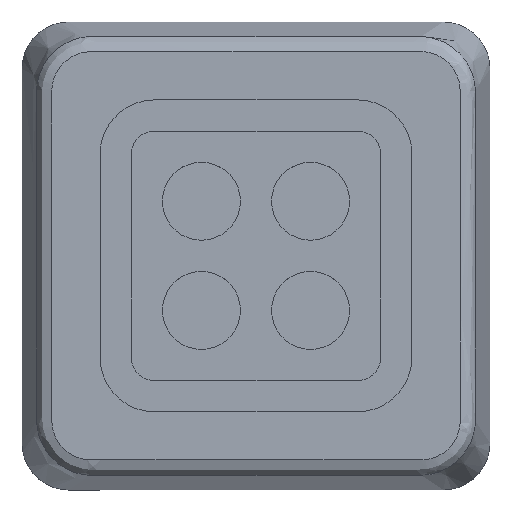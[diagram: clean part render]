
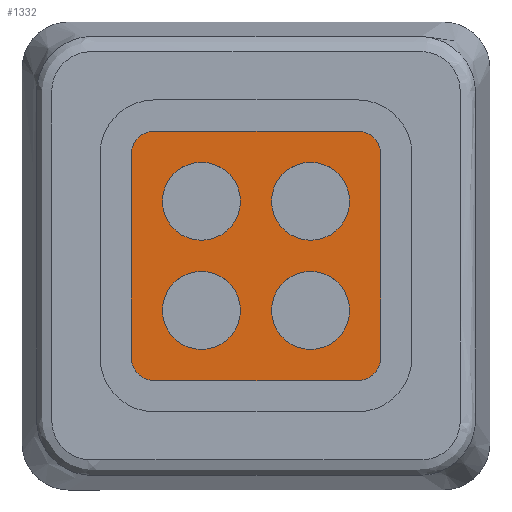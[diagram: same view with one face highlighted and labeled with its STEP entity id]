
A CAD part, top view. The second image highlights one B-rep face of the part: STEP entity #1332.
In plain terms, the highlighted planar face has unit normal (0, 0, 1).
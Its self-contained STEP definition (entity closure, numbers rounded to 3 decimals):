
#28=FACE_BOUND('',#203,.T.);
#29=FACE_BOUND('',#204,.T.);
#30=FACE_BOUND('',#205,.T.);
#31=FACE_BOUND('',#206,.T.);
#49=PLANE('',#1439);
#120=FACE_OUTER_BOUND('',#202,.T.);
#202=EDGE_LOOP('',(#1003,#1004,#1005,#1006,#1007,#1008,#1009,#1010));
#203=EDGE_LOOP('',(#1011));
#204=EDGE_LOOP('',(#1012));
#205=EDGE_LOOP('',(#1013));
#206=EDGE_LOOP('',(#1014));
#269=LINE('',#1918,#410);
#274=LINE('',#1932,#415);
#278=LINE('',#1944,#419);
#282=LINE('',#1956,#423);
#410=VECTOR('',#1541,10.);
#415=VECTOR('',#1554,10.);
#419=VECTOR('',#1566,10.);
#423=VECTOR('',#1578,10.);
#548=CIRCLE('',#1391,1.25);
#550=CIRCLE('',#1395,1.25);
#552=CIRCLE('',#1399,1.25);
#554=CIRCLE('',#1404,0.75);
#556=CIRCLE('',#1408,0.75);
#558=CIRCLE('',#1412,0.75);
#560=CIRCLE('',#1416,0.75);
#570=CIRCLE('',#1436,1.25);
#589=VERTEX_POINT('',#1895);
#591=VERTEX_POINT('',#1902);
#593=VERTEX_POINT('',#1909);
#595=VERTEX_POINT('',#1916);
#596=VERTEX_POINT('',#1917);
#599=VERTEX_POINT('',#1925);
#601=VERTEX_POINT('',#1931);
#603=VERTEX_POINT('',#1937);
#605=VERTEX_POINT('',#1943);
#607=VERTEX_POINT('',#1949);
#609=VERTEX_POINT('',#1955);
#627=VERTEX_POINT('',#2013);
#711=EDGE_CURVE('',#589,#589,#548,.T.);
#714=EDGE_CURVE('',#591,#591,#550,.T.);
#717=EDGE_CURVE('',#593,#593,#552,.T.);
#720=EDGE_CURVE('',#595,#596,#269,.T.);
#724=EDGE_CURVE('',#599,#595,#554,.T.);
#727=EDGE_CURVE('',#601,#599,#274,.T.);
#730=EDGE_CURVE('',#603,#601,#556,.T.);
#733=EDGE_CURVE('',#605,#603,#278,.T.);
#736=EDGE_CURVE('',#607,#605,#558,.T.);
#739=EDGE_CURVE('',#609,#607,#282,.T.);
#742=EDGE_CURVE('',#596,#609,#560,.T.);
#768=EDGE_CURVE('',#627,#627,#570,.T.);
#1003=ORIENTED_EDGE('',*,*,#720,.T.);
#1004=ORIENTED_EDGE('',*,*,#742,.T.);
#1005=ORIENTED_EDGE('',*,*,#739,.T.);
#1006=ORIENTED_EDGE('',*,*,#736,.T.);
#1007=ORIENTED_EDGE('',*,*,#733,.T.);
#1008=ORIENTED_EDGE('',*,*,#730,.T.);
#1009=ORIENTED_EDGE('',*,*,#727,.T.);
#1010=ORIENTED_EDGE('',*,*,#724,.T.);
#1011=ORIENTED_EDGE('',*,*,#768,.T.);
#1012=ORIENTED_EDGE('',*,*,#717,.T.);
#1013=ORIENTED_EDGE('',*,*,#714,.T.);
#1014=ORIENTED_EDGE('',*,*,#711,.T.);
#1332=ADVANCED_FACE('',(#120,#28,#29,#30,#31),#49,.T.);
#1391=AXIS2_PLACEMENT_3D('',#1896,#1514,#1515);
#1395=AXIS2_PLACEMENT_3D('',#1903,#1523,#1524);
#1399=AXIS2_PLACEMENT_3D('',#1910,#1532,#1533);
#1404=AXIS2_PLACEMENT_3D('',#1926,#1547,#1548);
#1408=AXIS2_PLACEMENT_3D('',#1938,#1559,#1560);
#1412=AXIS2_PLACEMENT_3D('',#1950,#1571,#1572);
#1416=AXIS2_PLACEMENT_3D('',#1961,#1583,#1584);
#1436=AXIS2_PLACEMENT_3D('',#2014,#1639,#1640);
#1439=AXIS2_PLACEMENT_3D('',#2019,#1646,#1647);
#1514=DIRECTION('center_axis',(0.,0.,-1.));
#1515=DIRECTION('ref_axis',(1.,0.,0.));
#1523=DIRECTION('center_axis',(0.,0.,-1.));
#1524=DIRECTION('ref_axis',(1.,0.,0.));
#1532=DIRECTION('center_axis',(0.,0.,-1.));
#1533=DIRECTION('ref_axis',(1.,0.,0.));
#1541=DIRECTION('',(1.,0.,0.));
#1547=DIRECTION('center_axis',(0.,0.,1.));
#1548=DIRECTION('ref_axis',(-1.,0.,0.));
#1554=DIRECTION('',(0.,-1.,0.));
#1559=DIRECTION('center_axis',(0.,0.,1.));
#1560=DIRECTION('ref_axis',(0.,1.,0.));
#1566=DIRECTION('',(-1.,0.,0.));
#1571=DIRECTION('center_axis',(0.,0.,1.));
#1572=DIRECTION('ref_axis',(1.,0.,0.));
#1578=DIRECTION('',(0.,1.,0.));
#1583=DIRECTION('center_axis',(0.,0.,1.));
#1584=DIRECTION('ref_axis',(0.,-1.,0.));
#1639=DIRECTION('center_axis',(0.,0.,-1.));
#1640=DIRECTION('ref_axis',(1.,0.,0.));
#1646=DIRECTION('center_axis',(0.,0.,1.));
#1647=DIRECTION('ref_axis',(1.,0.,0.));
#1895=CARTESIAN_POINT('',(66.5,14.75,25.8));
#1896=CARTESIAN_POINT('Origin',(67.75,14.75,25.8));
#1902=CARTESIAN_POINT('',(63.,14.75,25.8));
#1903=CARTESIAN_POINT('Origin',(64.25,14.75,25.8));
#1909=CARTESIAN_POINT('',(66.5,11.25,25.8));
#1910=CARTESIAN_POINT('Origin',(67.75,11.25,25.8));
#1916=CARTESIAN_POINT('',(62.75,9.,25.8));
#1917=CARTESIAN_POINT('',(69.25,9.,25.8));
#1918=CARTESIAN_POINT('',(64.58,9.,25.8));
#1925=CARTESIAN_POINT('',(62.,9.75,25.8));
#1926=CARTESIAN_POINT('Origin',(62.75,9.75,25.8));
#1931=CARTESIAN_POINT('',(62.,16.25,25.8));
#1932=CARTESIAN_POINT('',(62.,14.92,25.8));
#1937=CARTESIAN_POINT('',(62.75,17.,25.8));
#1938=CARTESIAN_POINT('Origin',(62.75,16.25,25.8));
#1943=CARTESIAN_POINT('',(69.25,17.,25.8));
#1944=CARTESIAN_POINT('',(67.83,17.,25.8));
#1949=CARTESIAN_POINT('',(70.,16.25,25.8));
#1950=CARTESIAN_POINT('Origin',(69.25,16.25,25.8));
#1955=CARTESIAN_POINT('',(70.,9.75,25.8));
#1956=CARTESIAN_POINT('',(70.,11.67,25.8));
#1961=CARTESIAN_POINT('Origin',(69.25,9.75,25.8));
#2013=CARTESIAN_POINT('',(63.,11.25,25.8));
#2014=CARTESIAN_POINT('Origin',(64.25,11.25,25.8));
#2019=CARTESIAN_POINT('Origin',(66.409,13.591,25.8));
